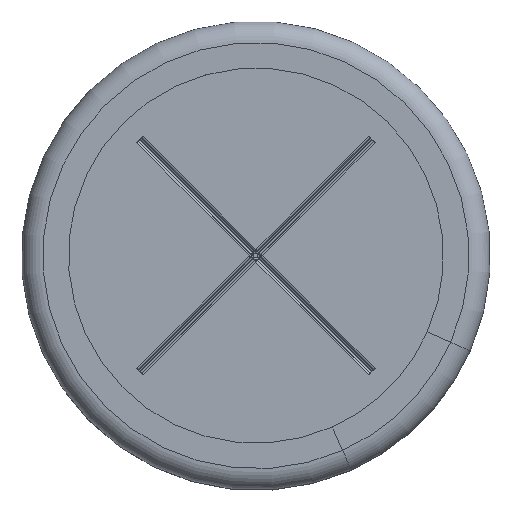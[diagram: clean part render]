
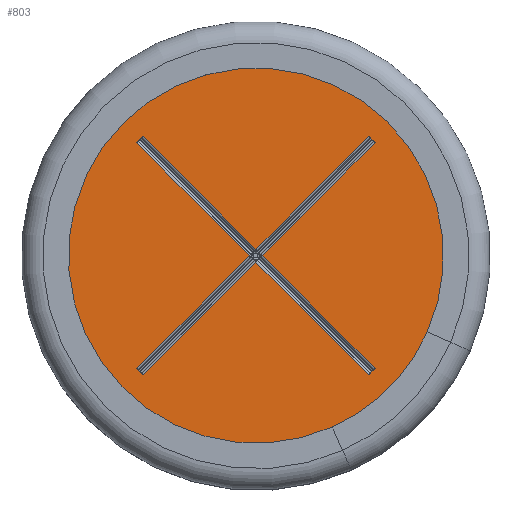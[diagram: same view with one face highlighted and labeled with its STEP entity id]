
A CAD part, top view. The second image highlights one B-rep face of the part: STEP entity #803.
In plain terms, the highlighted planar face has unit normal (0, 0, 1).
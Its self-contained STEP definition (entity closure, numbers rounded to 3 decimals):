
#176=FACE_BOUND('',#1284,.T.);
#177=FACE_BOUND('',#1285,.T.);
#687=PLANE('',#4047);
#803=ADVANCED_FACE('',(#176,#177),#687,.T.);
#1284=EDGE_LOOP('',(#2130));
#1285=EDGE_LOOP('',(#2131,#2132,#2133,#2134,#2135,#2136,#2137,#2138,#2139,
#2140,#2141,#2142));
#1517=LINE('',#5710,#1771);
#1518=LINE('',#5713,#1772);
#1519=LINE('',#5715,#1773);
#1520=LINE('',#5717,#1774);
#1521=LINE('',#5719,#1775);
#1522=LINE('',#5721,#1776);
#1523=LINE('',#5723,#1777);
#1524=LINE('',#5725,#1778);
#1525=LINE('',#5727,#1779);
#1526=LINE('',#5729,#1780);
#1527=LINE('',#5731,#1781);
#1528=LINE('',#5733,#1782);
#1771=VECTOR('',#4590,1.);
#1772=VECTOR('',#4591,1.);
#1773=VECTOR('',#4592,1.);
#1774=VECTOR('',#4593,1.);
#1775=VECTOR('',#4594,1.);
#1776=VECTOR('',#4595,1.);
#1777=VECTOR('',#4596,1.);
#1778=VECTOR('',#4597,1.);
#1779=VECTOR('',#4598,1.);
#1780=VECTOR('',#4599,1.);
#1781=VECTOR('',#4600,1.);
#1782=VECTOR('',#4601,1.);
#2130=ORIENTED_EDGE('',*,*,#3368,.F.);
#2131=ORIENTED_EDGE('',*,*,#3369,.T.);
#2132=ORIENTED_EDGE('',*,*,#3370,.T.);
#2133=ORIENTED_EDGE('',*,*,#3371,.T.);
#2134=ORIENTED_EDGE('',*,*,#3372,.F.);
#2135=ORIENTED_EDGE('',*,*,#3373,.T.);
#2136=ORIENTED_EDGE('',*,*,#3374,.T.);
#2137=ORIENTED_EDGE('',*,*,#3375,.F.);
#2138=ORIENTED_EDGE('',*,*,#3376,.T.);
#2139=ORIENTED_EDGE('',*,*,#3377,.T.);
#2140=ORIENTED_EDGE('',*,*,#3378,.T.);
#2141=ORIENTED_EDGE('',*,*,#3379,.T.);
#2142=ORIENTED_EDGE('',*,*,#3380,.T.);
#3038=VERTEX_POINT('',#5709);
#3039=VERTEX_POINT('',#5711);
#3040=VERTEX_POINT('',#5712);
#3041=VERTEX_POINT('',#5714);
#3042=VERTEX_POINT('',#5716);
#3043=VERTEX_POINT('',#5718);
#3044=VERTEX_POINT('',#5720);
#3045=VERTEX_POINT('',#5722);
#3046=VERTEX_POINT('',#5724);
#3047=VERTEX_POINT('',#5726);
#3048=VERTEX_POINT('',#5728);
#3049=VERTEX_POINT('',#5730);
#3050=VERTEX_POINT('',#5732);
#3368=EDGE_CURVE('',#3038,#3038,#3826,.T.);
#3369=EDGE_CURVE('',#3039,#3040,#1517,.T.);
#3370=EDGE_CURVE('',#3040,#3041,#1518,.T.);
#3371=EDGE_CURVE('',#3041,#3042,#1519,.T.);
#3372=EDGE_CURVE('',#3043,#3042,#1520,.T.);
#3373=EDGE_CURVE('',#3043,#3044,#1521,.T.);
#3374=EDGE_CURVE('',#3044,#3045,#1522,.T.);
#3375=EDGE_CURVE('',#3046,#3045,#1523,.T.);
#3376=EDGE_CURVE('',#3046,#3047,#1524,.T.);
#3377=EDGE_CURVE('',#3047,#3048,#1525,.T.);
#3378=EDGE_CURVE('',#3048,#3049,#1526,.T.);
#3379=EDGE_CURVE('',#3049,#3050,#1527,.T.);
#3380=EDGE_CURVE('',#3050,#3039,#1528,.T.);
#3826=CIRCLE('',#4046,10.);
#4046=AXIS2_PLACEMENT_3D('',#5708,#4588,#4589);
#4047=AXIS2_PLACEMENT_3D('',#5734,#4602,#4603);
#4588=DIRECTION('',(0.,0.,-1.));
#4589=DIRECTION('',(-1.,0.,0.));
#4590=DIRECTION('',(0.707,-0.707,0.));
#4591=DIRECTION('',(-0.707,-0.707,0.));
#4592=DIRECTION('',(0.707,-0.707,0.));
#4593=DIRECTION('',(0.707,0.707,0.));
#4594=DIRECTION('',(-0.707,0.707,0.));
#4595=DIRECTION('',(-0.707,-0.707,0.));
#4596=DIRECTION('',(0.707,-0.707,0.));
#4597=DIRECTION('',(0.707,0.707,0.));
#4598=DIRECTION('',(-0.707,0.707,0.));
#4599=DIRECTION('',(0.707,0.707,0.));
#4600=DIRECTION('',(0.707,-0.707,0.));
#4601=DIRECTION('',(0.707,0.707,0.));
#4602=DIRECTION('',(0.,0.,1.));
#4603=DIRECTION('',(1.,0.,0.));
#5708=CARTESIAN_POINT('',(0.,0.,14.8));
#5709=CARTESIAN_POINT('',(-10.,0.,14.8));
#5710=CARTESIAN_POINT('',(5.339,5.551,14.8));
#5711=CARTESIAN_POINT('',(5.295,5.594,14.8));
#5712=CARTESIAN_POINT('',(5.594,5.295,14.8));
#5713=CARTESIAN_POINT('',(-4.85,-5.15,14.8));
#5714=CARTESIAN_POINT('',(0.3,0.,14.8));
#5715=CARTESIAN_POINT('',(-4.85,5.15,14.8));
#5716=CARTESIAN_POINT('',(5.594,-5.295,14.8));
#5717=CARTESIAN_POINT('',(5.551,-5.339,14.8));
#5718=CARTESIAN_POINT('',(5.295,-5.594,14.8));
#5719=CARTESIAN_POINT('',(-5.15,4.85,14.8));
#5720=CARTESIAN_POINT('',(0.,-0.3,14.8));
#5721=CARTESIAN_POINT('',(-4.85,-5.15,14.8));
#5722=CARTESIAN_POINT('',(-5.295,-5.594,14.8));
#5723=CARTESIAN_POINT('',(-5.551,-5.339,14.8));
#5724=CARTESIAN_POINT('',(-5.594,-5.295,14.8));
#5725=CARTESIAN_POINT('',(-5.15,-4.85,14.8));
#5726=CARTESIAN_POINT('',(-0.3,0.,14.8));
#5727=CARTESIAN_POINT('',(-5.15,4.85,14.8));
#5728=CARTESIAN_POINT('',(-5.594,5.295,14.8));
#5729=CARTESIAN_POINT('',(-5.339,5.551,14.8));
#5730=CARTESIAN_POINT('',(-5.295,5.594,14.8));
#5731=CARTESIAN_POINT('',(-4.85,5.15,14.8));
#5732=CARTESIAN_POINT('',(0.,0.3,14.8));
#5733=CARTESIAN_POINT('',(-5.15,-4.85,14.8));
#5734=CARTESIAN_POINT('',(-10.,0.,14.8));
